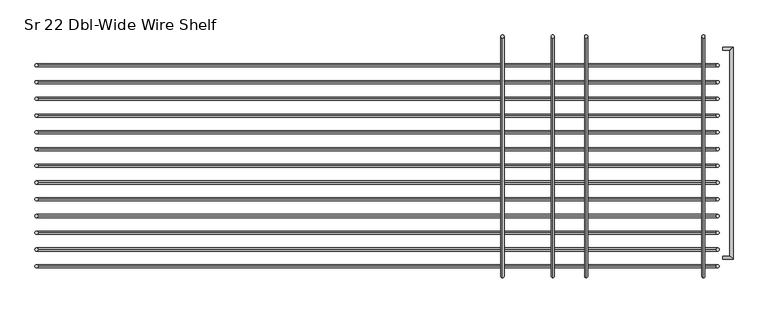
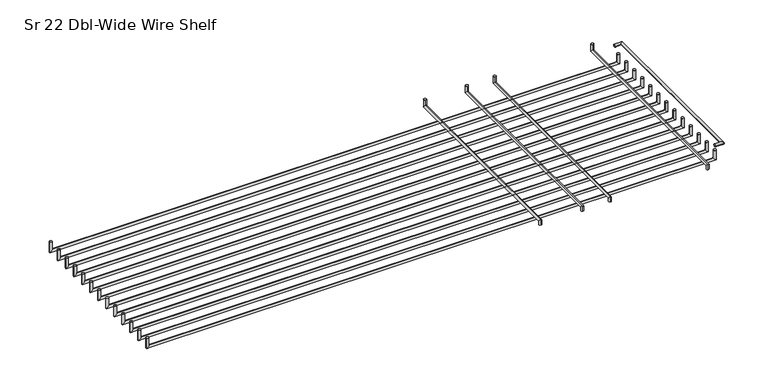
"""IFC4 building model written with IfcOpenShell, lengths in millimetres: furniture geometry, HermanMiller_Carts_CT521_CartShelf : Sr 22 Dbl-Wide Wire Shelf."""

from ifc_helpers import new_model, si_unit, frame, origin, place, context, project, spatial, circle_curve, ellipse_curve, source, transform, mapped, element, save
from ifc_brep_helpers import plane_surface, cylinder_surface, advanced_brep


def sr_22_dbl_wide_wire_shelf_9923fb06(model_context):
    return source(origin(), model_context, "Body", "AdvancedBrep", [
        advanced_brep(
        [(743.3373883, -178.26736, 2166.1501), (743.3373883, -183.04256, 2166.1501), (743.3373883, 133.81736, 2166.1501), (743.3373883, 138.59256, 2166.1501), (759.2123883, -183.04256, 2166.1501), (754.4371883, -178.26736, 2166.1501), (759.2123883, 138.59256, 2166.1501), (754.4371883, 133.81736, 2166.1501)],
        [
            (0, 1, circle_curve(frame((743.3373883, -180.65496, 2166.1501), z_axis=(-1.0, 0.0, 0.0), x_axis=(0.0, -1.0, 0.0)), 2.3876)),
            (1, 0, circle_curve(frame((743.3373883, -180.65496, 2166.1501), z_axis=(-1.0, 0.0, 0.0), x_axis=(0.0, -1.0, 0.0)), 2.3876)),
            (2, 3, circle_curve(frame((743.3373883, 136.20496, 2166.1501), z_axis=(-1.0, 0.0, 0.0), x_axis=(0.0, 1.0, 0.0)), 2.3876)),
            (3, 2, circle_curve(frame((743.3373883, 136.20496, 2166.1501), z_axis=(-1.0, 0.0, 0.0), x_axis=(0.0, 1.0, 0.0)), 2.3876)),
            (1, 4),
            (4, 5, ellipse_curve(frame((756.8247883, -180.65496, 2166.1501), z_axis=(-0.7071067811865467, -0.7071067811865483, 0.0), x_axis=(-0.7071067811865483, 0.7071067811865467, 0.0)), 3.3765763, 2.3876)),
            (5, 0),
            (5, 4, ellipse_curve(frame((756.8247883, -180.65496, 2166.1501), z_axis=(-0.7071067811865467, -0.7071067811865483, 0.0), x_axis=(-0.7071067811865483, 0.7071067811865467, 0.0)), 3.3765763, 2.3876)),
            (4, 6),
            (6, 7, ellipse_curve(frame((756.8247883, 136.20496, 2166.1501), z_axis=(0.7071067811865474, -0.7071067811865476, 0.0), x_axis=(-0.7071067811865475, -0.7071067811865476, 0.0)), 3.3765763, 2.3876)),
            (7, 5),
            (7, 6, ellipse_curve(frame((756.8247883, 136.20496, 2166.1501), z_axis=(0.7071067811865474, -0.7071067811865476, 0.0), x_axis=(-0.7071067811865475, -0.7071067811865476, 0.0)), 3.3765763, 2.3876)),
            (6, 3),
            (2, 7),
        ],
        [
            plane_surface(frame((743.3373883, -180.65496, 2166.1501), z_axis=(-1.0, 0.0, 0.0), x_axis=(0.0, 0.0, 1.0))),
            plane_surface(frame((743.3373883, 136.20496, 2166.1501), z_axis=(-1.0, 0.0, 0.0), x_axis=(0.0, 0.0, 1.0))),
            cylinder_surface(frame((743.3373883, -180.65496, 2166.1501), z_axis=(-1.0, 0.0, 0.0), x_axis=(0.0, -1.0, 0.0)), 2.3876),
            cylinder_surface(frame((756.8247883, -180.65496, 2166.1501), z_axis=(0.0, -1.0, 0.0), x_axis=(1.0, 0.0, 0.0)), 2.3876),
            cylinder_surface(frame((756.8247883, 136.20496, 2166.1501), z_axis=(1.0, 0.0, 0.0), x_axis=(0.0, 1.0, 0.0)), 2.3876),
        ],
        [
            (0, [[1, 2]]),
            (1, [[3, 4]]),
            (2, [[5, 6, 7, -2]]),
            (2, [[-7, 8, -5, -1]]),
            (3, [[9, 10, 11, -6]]),
            (3, [[-11, 12, -9, -8]]),
            (4, [[13, -3, 14, -10]]),
            (4, [[-14, -4, -13, -12]]),
        ],
    ),
        advanced_brep(
        [(733.4732983, 34.925, 2168.5377), (738.2357983, 34.925, 2168.5377), (733.4732983, 34.925, 2153.2596), (738.2357983, 34.925, 2148.4971), (-295.1886017, 34.925, 2153.2596), (-299.9511017, 34.925, 2148.4971), (-295.1886017, 34.925, 2168.5377), (-299.9511017, 34.925, 2168.5377)],
        [
            (0, 1, circle_curve(frame((735.8545483, 34.925, 2168.5377), z_axis=(0.0, 0.0, 1.0), x_axis=(1.0, 0.0, 0.0)), 2.38125)),
            (1, 0, circle_curve(frame((735.8545483, 34.925, 2168.5377), z_axis=(0.0, 0.0, 1.0), x_axis=(1.0, 0.0, 0.0)), 2.38125)),
            (0, 2),
            (2, 3, ellipse_curve(frame((735.8545483, 34.925, 2150.87835), z_axis=(0.7071067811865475, 0.0, 0.7071067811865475), x_axis=(-0.7071067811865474, 0.0, 0.7071067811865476)), 3.367596, 2.38125)),
            (3, 1),
            (3, 2, ellipse_curve(frame((735.8545483, 34.925, 2150.87835), z_axis=(0.7071067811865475, 0.0, 0.7071067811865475), x_axis=(-0.7071067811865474, 0.0, 0.7071067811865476)), 3.367596, 2.38125)),
            (2, 4),
            (4, 5, ellipse_curve(frame((-297.5698517, 34.925, 2150.87835), z_axis=(0.7071067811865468, 0.0, -0.7071067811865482), x_axis=(0.7071067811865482, 0.0, 0.7071067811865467)), 3.367596, 2.38125)),
            (5, 3),
            (5, 4, ellipse_curve(frame((-297.5698517, 34.925, 2150.87835), z_axis=(0.7071067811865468, 0.0, -0.7071067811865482), x_axis=(0.7071067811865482, 0.0, 0.7071067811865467)), 3.367596, 2.38125)),
            (6, 7, circle_curve(frame((-297.5698517, 34.925, 2168.5377), z_axis=(0.0, 0.0, 1.0), x_axis=(-1.0, 0.0, 0.0)), 2.38125)),
            (7, 6, circle_curve(frame((-297.5698517, 34.925, 2168.5377), z_axis=(0.0, 0.0, 1.0), x_axis=(-1.0, 0.0, 0.0)), 2.38125)),
            (4, 6),
            (7, 5),
        ],
        [
            plane_surface(frame((735.8545483, 34.925, 2168.5377), z_axis=(0.0, 0.0, 1.0), x_axis=(0.0, -1.0, 0.0))),
            cylinder_surface(frame((735.8545483, 34.925, 2168.5377), z_axis=(0.0, 0.0, 1.0), x_axis=(1.0, 0.0, 0.0)), 2.38125),
            cylinder_surface(frame((735.8545483, 34.925, 2150.87835), z_axis=(1.0, 0.0, 0.0), x_axis=(0.0, 0.0, -1.0)), 2.38125),
            plane_surface(frame((-297.5698517, 34.925, 2168.5377), z_axis=(0.0, 0.0, 1.0), x_axis=(0.0, -1.0, 0.0))),
            cylinder_surface(frame((-297.5698517, 34.925, 2150.87835), z_axis=(0.0, 0.0, -1.0), x_axis=(-1.0, 0.0, 0.0)), 2.38125),
        ],
        [
            (0, [[1, 2]]),
            (1, [[-1, 3, 4, 5]]),
            (1, [[-2, -5, 6, -3]]),
            (2, [[-4, 7, 8, 9]]),
            (2, [[-6, -9, 10, -7]]),
            (3, [[11, 12]]),
            (4, [[-8, 13, -12, 14]]),
            (4, [[-10, -14, -11, -13]]),
        ],
    ),
        advanced_brep(
        [(733.4732983, -15.875, 2168.5377), (738.2357983, -15.875, 2168.5377), (733.4732983, -15.875, 2153.2596), (738.2357983, -15.875, 2148.4971), (-295.1886017, -15.875, 2153.2596), (-299.9511017, -15.875, 2148.4971), (-295.1886017, -15.875, 2168.5377), (-299.9511017, -15.875, 2168.5377)],
        [
            (0, 1, circle_curve(frame((735.8545483, -15.875, 2168.5377), z_axis=(0.0, 0.0, 1.0), x_axis=(1.0, 0.0, 0.0)), 2.38125)),
            (1, 0, circle_curve(frame((735.8545483, -15.875, 2168.5377), z_axis=(0.0, 0.0, 1.0), x_axis=(1.0, 0.0, 0.0)), 2.38125)),
            (0, 2),
            (2, 3, ellipse_curve(frame((735.8545483, -15.875, 2150.87835), z_axis=(0.7071067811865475, 0.0, 0.7071067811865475), x_axis=(-0.7071067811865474, 0.0, 0.7071067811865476)), 3.367596, 2.38125)),
            (3, 1),
            (3, 2, ellipse_curve(frame((735.8545483, -15.875, 2150.87835), z_axis=(0.7071067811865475, 0.0, 0.7071067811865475), x_axis=(-0.7071067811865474, 0.0, 0.7071067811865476)), 3.367596, 2.38125)),
            (2, 4),
            (4, 5, ellipse_curve(frame((-297.5698517, -15.875, 2150.87835), z_axis=(0.7071067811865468, 0.0, -0.7071067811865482), x_axis=(0.7071067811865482, 0.0, 0.7071067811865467)), 3.367596, 2.38125)),
            (5, 3),
            (5, 4, ellipse_curve(frame((-297.5698517, -15.875, 2150.87835), z_axis=(0.7071067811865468, 0.0, -0.7071067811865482), x_axis=(0.7071067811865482, 0.0, 0.7071067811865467)), 3.367596, 2.38125)),
            (6, 7, circle_curve(frame((-297.5698517, -15.875, 2168.5377), z_axis=(0.0, 0.0, 1.0), x_axis=(-1.0, 0.0, 0.0)), 2.38125)),
            (7, 6, circle_curve(frame((-297.5698517, -15.875, 2168.5377), z_axis=(0.0, 0.0, 1.0), x_axis=(-1.0, 0.0, 0.0)), 2.38125)),
            (4, 6),
            (7, 5),
        ],
        [
            plane_surface(frame((735.8545483, -15.875, 2168.5377), z_axis=(0.0, 0.0, 1.0), x_axis=(0.0, -1.0, 0.0))),
            cylinder_surface(frame((735.8545483, -15.875, 2168.5377), z_axis=(0.0, 0.0, 1.0), x_axis=(1.0, 0.0, 0.0)), 2.38125),
            cylinder_surface(frame((735.8545483, -15.875, 2150.87835), z_axis=(1.0, 0.0, 0.0), x_axis=(0.0, 0.0, -1.0)), 2.38125),
            plane_surface(frame((-297.5698517, -15.875, 2168.5377), z_axis=(0.0, 0.0, 1.0), x_axis=(0.0, -1.0, 0.0))),
            cylinder_surface(frame((-297.5698517, -15.875, 2150.87835), z_axis=(0.0, 0.0, -1.0), x_axis=(-1.0, 0.0, 0.0)), 2.38125),
        ],
        [
            (0, [[1, 2]]),
            (1, [[-1, 3, 4, 5]]),
            (1, [[-2, -5, 6, -3]]),
            (2, [[-4, 7, 8, 9]]),
            (2, [[-6, -9, 10, -7]]),
            (3, [[11, 12]]),
            (4, [[-8, 13, -12, 14]]),
            (4, [[-10, -14, -11, -13]]),
        ],
    ),
        advanced_brep(
        [(733.4732983, -66.675, 2168.5377), (738.2357983, -66.675, 2168.5377), (733.4732983, -66.675, 2153.2596), (738.2357983, -66.675, 2148.4971), (-295.1886017, -66.675, 2153.2596), (-299.9511017, -66.675, 2148.4971), (-295.1886017, -66.675, 2168.5377), (-299.9511017, -66.675, 2168.5377)],
        [
            (0, 1, circle_curve(frame((735.8545483, -66.675, 2168.5377), z_axis=(0.0, 0.0, 1.0), x_axis=(1.0, 0.0, 0.0)), 2.38125)),
            (1, 0, circle_curve(frame((735.8545483, -66.675, 2168.5377), z_axis=(0.0, 0.0, 1.0), x_axis=(1.0, 0.0, 0.0)), 2.38125)),
            (0, 2),
            (2, 3, ellipse_curve(frame((735.8545483, -66.675, 2150.87835), z_axis=(0.7071067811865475, 0.0, 0.7071067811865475), x_axis=(-0.7071067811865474, 0.0, 0.7071067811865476)), 3.367596, 2.38125)),
            (3, 1),
            (3, 2, ellipse_curve(frame((735.8545483, -66.675, 2150.87835), z_axis=(0.7071067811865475, 0.0, 0.7071067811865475), x_axis=(-0.7071067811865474, 0.0, 0.7071067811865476)), 3.367596, 2.38125)),
            (2, 4),
            (4, 5, ellipse_curve(frame((-297.5698517, -66.675, 2150.87835), z_axis=(0.7071067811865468, 0.0, -0.7071067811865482), x_axis=(0.7071067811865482, 0.0, 0.7071067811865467)), 3.367596, 2.38125)),
            (5, 3),
            (5, 4, ellipse_curve(frame((-297.5698517, -66.675, 2150.87835), z_axis=(0.7071067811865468, 0.0, -0.7071067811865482), x_axis=(0.7071067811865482, 0.0, 0.7071067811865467)), 3.367596, 2.38125)),
            (6, 7, circle_curve(frame((-297.5698517, -66.675, 2168.5377), z_axis=(0.0, 0.0, 1.0), x_axis=(-1.0, 0.0, 0.0)), 2.38125)),
            (7, 6, circle_curve(frame((-297.5698517, -66.675, 2168.5377), z_axis=(0.0, 0.0, 1.0), x_axis=(-1.0, 0.0, 0.0)), 2.38125)),
            (4, 6),
            (7, 5),
        ],
        [
            plane_surface(frame((735.8545483, -66.675, 2168.5377), z_axis=(0.0, 0.0, 1.0), x_axis=(0.0, -1.0, 0.0))),
            cylinder_surface(frame((735.8545483, -66.675, 2168.5377), z_axis=(0.0, 0.0, 1.0), x_axis=(1.0, 0.0, 0.0)), 2.38125),
            cylinder_surface(frame((735.8545483, -66.675, 2150.87835), z_axis=(1.0, 0.0, 0.0), x_axis=(0.0, 0.0, -1.0)), 2.38125),
            plane_surface(frame((-297.5698517, -66.675, 2168.5377), z_axis=(0.0, 0.0, 1.0), x_axis=(0.0, -1.0, 0.0))),
            cylinder_surface(frame((-297.5698517, -66.675, 2150.87835), z_axis=(0.0, 0.0, -1.0), x_axis=(-1.0, 0.0, 0.0)), 2.38125),
        ],
        [
            (0, [[1, 2]]),
            (1, [[-1, 3, 4, 5]]),
            (1, [[-2, -5, 6, -3]]),
            (2, [[-4, 7, 8, 9]]),
            (2, [[-6, -9, 10, -7]]),
            (3, [[11, 12]]),
            (4, [[-8, 13, -12, 14]]),
            (4, [[-10, -14, -11, -13]]),
        ],
    ),
        advanced_brep(
        [(733.4732983, -117.475, 2168.5377), (738.2357983, -117.475, 2168.5377), (733.4732983, -117.475, 2153.2596), (738.2357983, -117.475, 2148.4971), (-295.1886017, -117.475, 2153.2596), (-299.9511017, -117.475, 2148.4971), (-295.1886017, -117.475, 2168.5377), (-299.9511017, -117.475, 2168.5377)],
        [
            (0, 1, circle_curve(frame((735.8545483, -117.475, 2168.5377), z_axis=(0.0, 0.0, 1.0), x_axis=(1.0, 0.0, 0.0)), 2.38125)),
            (1, 0, circle_curve(frame((735.8545483, -117.475, 2168.5377), z_axis=(0.0, 0.0, 1.0), x_axis=(1.0, 0.0, 0.0)), 2.38125)),
            (0, 2),
            (2, 3, ellipse_curve(frame((735.8545483, -117.475, 2150.87835), z_axis=(0.7071067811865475, 0.0, 0.7071067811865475), x_axis=(-0.7071067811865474, 0.0, 0.7071067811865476)), 3.367596, 2.38125)),
            (3, 1),
            (3, 2, ellipse_curve(frame((735.8545483, -117.475, 2150.87835), z_axis=(0.7071067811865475, 0.0, 0.7071067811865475), x_axis=(-0.7071067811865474, 0.0, 0.7071067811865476)), 3.367596, 2.38125)),
            (2, 4),
            (4, 5, ellipse_curve(frame((-297.5698517, -117.475, 2150.87835), z_axis=(0.7071067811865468, 0.0, -0.7071067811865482), x_axis=(0.7071067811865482, 0.0, 0.7071067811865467)), 3.367596, 2.38125)),
            (5, 3),
            (5, 4, ellipse_curve(frame((-297.5698517, -117.475, 2150.87835), z_axis=(0.7071067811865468, 0.0, -0.7071067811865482), x_axis=(0.7071067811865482, 0.0, 0.7071067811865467)), 3.367596, 2.38125)),
            (6, 7, circle_curve(frame((-297.5698517, -117.475, 2168.5377), z_axis=(0.0, 0.0, 1.0), x_axis=(-1.0, 0.0, 0.0)), 2.38125)),
            (7, 6, circle_curve(frame((-297.5698517, -117.475, 2168.5377), z_axis=(0.0, 0.0, 1.0), x_axis=(-1.0, 0.0, 0.0)), 2.38125)),
            (4, 6),
            (7, 5),
        ],
        [
            plane_surface(frame((735.8545483, -117.475, 2168.5377), z_axis=(0.0, 0.0, 1.0), x_axis=(0.0, -1.0, 0.0))),
            cylinder_surface(frame((735.8545483, -117.475, 2168.5377), z_axis=(0.0, 0.0, 1.0), x_axis=(1.0, 0.0, 0.0)), 2.38125),
            cylinder_surface(frame((735.8545483, -117.475, 2150.87835), z_axis=(1.0, 0.0, 0.0), x_axis=(0.0, 0.0, -1.0)), 2.38125),
            plane_surface(frame((-297.5698517, -117.475, 2168.5377), z_axis=(0.0, 0.0, 1.0), x_axis=(0.0, -1.0, 0.0))),
            cylinder_surface(frame((-297.5698517, -117.475, 2150.87835), z_axis=(0.0, 0.0, -1.0), x_axis=(-1.0, 0.0, 0.0)), 2.38125),
        ],
        [
            (0, [[1, 2]]),
            (1, [[-1, 3, 4, 5]]),
            (1, [[-2, -5, 6, -3]]),
            (2, [[-4, 7, 8, 9]]),
            (2, [[-6, -9, 10, -7]]),
            (3, [[11, 12]]),
            (4, [[-8, 13, -12, 14]]),
            (4, [[-10, -14, -11, -13]]),
        ],
    ),
        advanced_brep(
        [(733.4732983, -168.275, 2168.5377), (738.2357983, -168.275, 2168.5377), (733.4732983, -168.275, 2153.2596), (738.2357983, -168.275, 2148.4971), (-295.1886017, -168.275, 2153.2596), (-299.9511017, -168.275, 2148.4971), (-295.1886017, -168.275, 2168.5377), (-299.9511017, -168.275, 2168.5377)],
        [
            (0, 1, circle_curve(frame((735.8545483, -168.275, 2168.5377), z_axis=(0.0, 0.0, 1.0), x_axis=(1.0, 0.0, 0.0)), 2.38125)),
            (1, 0, circle_curve(frame((735.8545483, -168.275, 2168.5377), z_axis=(0.0, 0.0, 1.0), x_axis=(1.0, 0.0, 0.0)), 2.38125)),
            (0, 2),
            (2, 3, ellipse_curve(frame((735.8545483, -168.275, 2150.87835), z_axis=(0.7071067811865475, 0.0, 0.7071067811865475), x_axis=(-0.7071067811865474, 0.0, 0.7071067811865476)), 3.367596, 2.38125)),
            (3, 1),
            (3, 2, ellipse_curve(frame((735.8545483, -168.275, 2150.87835), z_axis=(0.7071067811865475, 0.0, 0.7071067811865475), x_axis=(-0.7071067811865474, 0.0, 0.7071067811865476)), 3.367596, 2.38125)),
            (2, 4),
            (4, 5, ellipse_curve(frame((-297.5698517, -168.275, 2150.87835), z_axis=(0.7071067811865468, 0.0, -0.7071067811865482), x_axis=(0.7071067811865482, 0.0, 0.7071067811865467)), 3.367596, 2.38125)),
            (5, 3),
            (5, 4, ellipse_curve(frame((-297.5698517, -168.275, 2150.87835), z_axis=(0.7071067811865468, 0.0, -0.7071067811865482), x_axis=(0.7071067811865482, 0.0, 0.7071067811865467)), 3.367596, 2.38125)),
            (6, 7, circle_curve(frame((-297.5698517, -168.275, 2168.5377), z_axis=(0.0, 0.0, 1.0), x_axis=(-1.0, 0.0, 0.0)), 2.38125)),
            (7, 6, circle_curve(frame((-297.5698517, -168.275, 2168.5377), z_axis=(0.0, 0.0, 1.0), x_axis=(-1.0, 0.0, 0.0)), 2.38125)),
            (4, 6),
            (7, 5),
        ],
        [
            plane_surface(frame((735.8545483, -168.275, 2168.5377), z_axis=(0.0, 0.0, 1.0), x_axis=(0.0, -1.0, 0.0))),
            cylinder_surface(frame((735.8545483, -168.275, 2168.5377), z_axis=(0.0, 0.0, 1.0), x_axis=(1.0, 0.0, 0.0)), 2.38125),
            cylinder_surface(frame((735.8545483, -168.275, 2150.87835), z_axis=(1.0, 0.0, 0.0), x_axis=(0.0, 0.0, -1.0)), 2.38125),
            plane_surface(frame((-297.5698517, -168.275, 2168.5377), z_axis=(0.0, 0.0, 1.0), x_axis=(0.0, -1.0, 0.0))),
            cylinder_surface(frame((-297.5698517, -168.275, 2150.87835), z_axis=(0.0, 0.0, -1.0), x_axis=(-1.0, 0.0, 0.0)), 2.38125),
        ],
        [
            (0, [[1, 2]]),
            (1, [[-1, 3, 4, 5]]),
            (1, [[-2, -5, 6, -3]]),
            (2, [[-4, 7, 8, 9]]),
            (2, [[-6, -9, 10, -7]]),
            (3, [[11, 12]]),
            (4, [[-8, 13, -12, 14]]),
            (4, [[-10, -14, -11, -13]]),
        ],
    ),
        advanced_brep(
        [(733.4732983, -193.675, 2168.5377), (738.2357983, -193.675, 2168.5377), (733.4732983, -193.675, 2153.2596), (738.2357983, -193.675, 2148.4971), (-295.1886017, -193.675, 2153.2596), (-299.9511017, -193.675, 2148.4971), (-295.1886017, -193.675, 2168.5377), (-299.9511017, -193.675, 2168.5377)],
        [
            (0, 1, circle_curve(frame((735.8545483, -193.675, 2168.5377), z_axis=(0.0, 0.0, 1.0), x_axis=(1.0, 0.0, 0.0)), 2.38125)),
            (1, 0, circle_curve(frame((735.8545483, -193.675, 2168.5377), z_axis=(0.0, 0.0, 1.0), x_axis=(1.0, 0.0, 0.0)), 2.38125)),
            (0, 2),
            (2, 3, ellipse_curve(frame((735.8545483, -193.675, 2150.87835), z_axis=(0.7071067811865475, 0.0, 0.7071067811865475), x_axis=(-0.7071067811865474, 0.0, 0.7071067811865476)), 3.367596, 2.38125)),
            (3, 1),
            (3, 2, ellipse_curve(frame((735.8545483, -193.675, 2150.87835), z_axis=(0.7071067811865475, 0.0, 0.7071067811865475), x_axis=(-0.7071067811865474, 0.0, 0.7071067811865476)), 3.367596, 2.38125)),
            (2, 4),
            (4, 5, ellipse_curve(frame((-297.5698517, -193.675, 2150.87835), z_axis=(0.7071067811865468, 0.0, -0.7071067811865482), x_axis=(0.7071067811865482, 0.0, 0.7071067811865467)), 3.367596, 2.38125)),
            (5, 3),
            (5, 4, ellipse_curve(frame((-297.5698517, -193.675, 2150.87835), z_axis=(0.7071067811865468, 0.0, -0.7071067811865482), x_axis=(0.7071067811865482, 0.0, 0.7071067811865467)), 3.367596, 2.38125)),
            (6, 7, circle_curve(frame((-297.5698517, -193.675, 2168.5377), z_axis=(0.0, 0.0, 1.0), x_axis=(-1.0, 0.0, 0.0)), 2.38125)),
            (7, 6, circle_curve(frame((-297.5698517, -193.675, 2168.5377), z_axis=(0.0, 0.0, 1.0), x_axis=(-1.0, 0.0, 0.0)), 2.38125)),
            (4, 6),
            (7, 5),
        ],
        [
            plane_surface(frame((735.8545483, -193.675, 2168.5377), z_axis=(0.0, 0.0, 1.0), x_axis=(0.0, -1.0, 0.0))),
            cylinder_surface(frame((735.8545483, -193.675, 2168.5377), z_axis=(0.0, 0.0, 1.0), x_axis=(1.0, 0.0, 0.0)), 2.38125),
            cylinder_surface(frame((735.8545483, -193.675, 2150.87835), z_axis=(1.0, 0.0, 0.0), x_axis=(0.0, 0.0, -1.0)), 2.38125),
            plane_surface(frame((-297.5698517, -193.675, 2168.5377), z_axis=(0.0, 0.0, 1.0), x_axis=(0.0, -1.0, 0.0))),
            cylinder_surface(frame((-297.5698517, -193.675, 2150.87835), z_axis=(0.0, 0.0, -1.0), x_axis=(-1.0, 0.0, 0.0)), 2.38125),
        ],
        [
            (0, [[1, 2]]),
            (1, [[-1, 3, 4, 5]]),
            (1, [[-2, -5, 6, -3]]),
            (2, [[-4, 7, 8, 9]]),
            (2, [[-6, -9, 10, -7]]),
            (3, [[11, 12]]),
            (4, [[-8, 13, -12, 14]]),
            (4, [[-10, -14, -11, -13]]),
        ],
    ),
        advanced_brep(
        [(733.4732983, -142.875, 2168.5377), (738.2357983, -142.875, 2168.5377), (733.4732983, -142.875, 2153.2596), (738.2357983, -142.875, 2148.4971), (-295.1886017, -142.875, 2153.2596), (-299.9511017, -142.875, 2148.4971), (-295.1886017, -142.875, 2168.5377), (-299.9511017, -142.875, 2168.5377)],
        [
            (0, 1, circle_curve(frame((735.8545483, -142.875, 2168.5377), z_axis=(0.0, 0.0, 1.0), x_axis=(1.0, 0.0, 0.0)), 2.38125)),
            (1, 0, circle_curve(frame((735.8545483, -142.875, 2168.5377), z_axis=(0.0, 0.0, 1.0), x_axis=(1.0, 0.0, 0.0)), 2.38125)),
            (0, 2),
            (2, 3, ellipse_curve(frame((735.8545483, -142.875, 2150.87835), z_axis=(0.7071067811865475, 0.0, 0.7071067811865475), x_axis=(-0.7071067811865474, 0.0, 0.7071067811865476)), 3.367596, 2.38125)),
            (3, 1),
            (3, 2, ellipse_curve(frame((735.8545483, -142.875, 2150.87835), z_axis=(0.7071067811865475, 0.0, 0.7071067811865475), x_axis=(-0.7071067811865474, 0.0, 0.7071067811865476)), 3.367596, 2.38125)),
            (2, 4),
            (4, 5, ellipse_curve(frame((-297.5698517, -142.875, 2150.87835), z_axis=(0.7071067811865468, 0.0, -0.7071067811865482), x_axis=(0.7071067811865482, 0.0, 0.7071067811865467)), 3.367596, 2.38125)),
            (5, 3),
            (5, 4, ellipse_curve(frame((-297.5698517, -142.875, 2150.87835), z_axis=(0.7071067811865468, 0.0, -0.7071067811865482), x_axis=(0.7071067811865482, 0.0, 0.7071067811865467)), 3.367596, 2.38125)),
            (6, 7, circle_curve(frame((-297.5698517, -142.875, 2168.5377), z_axis=(0.0, 0.0, 1.0), x_axis=(-1.0, 0.0, 0.0)), 2.38125)),
            (7, 6, circle_curve(frame((-297.5698517, -142.875, 2168.5377), z_axis=(0.0, 0.0, 1.0), x_axis=(-1.0, 0.0, 0.0)), 2.38125)),
            (4, 6),
            (7, 5),
        ],
        [
            plane_surface(frame((735.8545483, -142.875, 2168.5377), z_axis=(0.0, 0.0, 1.0), x_axis=(0.0, -1.0, 0.0))),
            cylinder_surface(frame((735.8545483, -142.875, 2168.5377), z_axis=(0.0, 0.0, 1.0), x_axis=(1.0, 0.0, 0.0)), 2.38125),
            cylinder_surface(frame((735.8545483, -142.875, 2150.87835), z_axis=(1.0, 0.0, 0.0), x_axis=(0.0, 0.0, -1.0)), 2.38125),
            plane_surface(frame((-297.5698517, -142.875, 2168.5377), z_axis=(0.0, 0.0, 1.0), x_axis=(0.0, -1.0, 0.0))),
            cylinder_surface(frame((-297.5698517, -142.875, 2150.87835), z_axis=(0.0, 0.0, -1.0), x_axis=(-1.0, 0.0, 0.0)), 2.38125),
        ],
        [
            (0, [[1, 2]]),
            (1, [[-1, 3, 4, 5]]),
            (1, [[-2, -5, 6, -3]]),
            (2, [[-4, 7, 8, 9]]),
            (2, [[-6, -9, 10, -7]]),
            (3, [[11, 12]]),
            (4, [[-8, 13, -12, 14]]),
            (4, [[-10, -14, -11, -13]]),
        ],
    ),
        advanced_brep(
        [(733.4732983, -92.075, 2168.5377), (738.2357983, -92.075, 2168.5377), (733.4732983, -92.075, 2153.2596), (738.2357983, -92.075, 2148.4971), (-295.1886017, -92.075, 2153.2596), (-299.9511017, -92.075, 2148.4971), (-295.1886017, -92.075, 2168.5377), (-299.9511017, -92.075, 2168.5377)],
        [
            (0, 1, circle_curve(frame((735.8545483, -92.075, 2168.5377), z_axis=(0.0, 0.0, 1.0), x_axis=(1.0, 0.0, 0.0)), 2.38125)),
            (1, 0, circle_curve(frame((735.8545483, -92.075, 2168.5377), z_axis=(0.0, 0.0, 1.0), x_axis=(1.0, 0.0, 0.0)), 2.38125)),
            (0, 2),
            (2, 3, ellipse_curve(frame((735.8545483, -92.075, 2150.87835), z_axis=(0.7071067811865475, 0.0, 0.7071067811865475), x_axis=(-0.7071067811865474, 0.0, 0.7071067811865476)), 3.367596, 2.38125)),
            (3, 1),
            (3, 2, ellipse_curve(frame((735.8545483, -92.075, 2150.87835), z_axis=(0.7071067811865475, 0.0, 0.7071067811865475), x_axis=(-0.7071067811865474, 0.0, 0.7071067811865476)), 3.367596, 2.38125)),
            (2, 4),
            (4, 5, ellipse_curve(frame((-297.5698517, -92.075, 2150.87835), z_axis=(0.7071067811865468, 0.0, -0.7071067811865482), x_axis=(0.7071067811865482, 0.0, 0.7071067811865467)), 3.367596, 2.38125)),
            (5, 3),
            (5, 4, ellipse_curve(frame((-297.5698517, -92.075, 2150.87835), z_axis=(0.7071067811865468, 0.0, -0.7071067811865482), x_axis=(0.7071067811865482, 0.0, 0.7071067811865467)), 3.367596, 2.38125)),
            (6, 7, circle_curve(frame((-297.5698517, -92.075, 2168.5377), z_axis=(0.0, 0.0, 1.0), x_axis=(-1.0, 0.0, 0.0)), 2.38125)),
            (7, 6, circle_curve(frame((-297.5698517, -92.075, 2168.5377), z_axis=(0.0, 0.0, 1.0), x_axis=(-1.0, 0.0, 0.0)), 2.38125)),
            (4, 6),
            (7, 5),
        ],
        [
            plane_surface(frame((735.8545483, -92.075, 2168.5377), z_axis=(0.0, 0.0, 1.0), x_axis=(0.0, -1.0, 0.0))),
            cylinder_surface(frame((735.8545483, -92.075, 2168.5377), z_axis=(0.0, 0.0, 1.0), x_axis=(1.0, 0.0, 0.0)), 2.38125),
            cylinder_surface(frame((735.8545483, -92.075, 2150.87835), z_axis=(1.0, 0.0, 0.0), x_axis=(0.0, 0.0, -1.0)), 2.38125),
            plane_surface(frame((-297.5698517, -92.075, 2168.5377), z_axis=(0.0, 0.0, 1.0), x_axis=(0.0, -1.0, 0.0))),
            cylinder_surface(frame((-297.5698517, -92.075, 2150.87835), z_axis=(0.0, 0.0, -1.0), x_axis=(-1.0, 0.0, 0.0)), 2.38125),
        ],
        [
            (0, [[1, 2]]),
            (1, [[-1, 3, 4, 5]]),
            (1, [[-2, -5, 6, -3]]),
            (2, [[-4, 7, 8, 9]]),
            (2, [[-6, -9, 10, -7]]),
            (3, [[11, 12]]),
            (4, [[-8, 13, -12, 14]]),
            (4, [[-10, -14, -11, -13]]),
        ],
    ),
        advanced_brep(
        [(733.4732983, -41.275, 2168.5377), (738.2357983, -41.275, 2168.5377), (733.4732983, -41.275, 2153.2596), (738.2357983, -41.275, 2148.4971), (-295.1886017, -41.275, 2153.2596), (-299.9511017, -41.275, 2148.4971), (-295.1886017, -41.275, 2168.5377), (-299.9511017, -41.275, 2168.5377)],
        [
            (0, 1, circle_curve(frame((735.8545483, -41.275, 2168.5377), z_axis=(0.0, 0.0, 1.0), x_axis=(1.0, 0.0, 0.0)), 2.38125)),
            (1, 0, circle_curve(frame((735.8545483, -41.275, 2168.5377), z_axis=(0.0, 0.0, 1.0), x_axis=(1.0, 0.0, 0.0)), 2.38125)),
            (0, 2),
            (2, 3, ellipse_curve(frame((735.8545483, -41.275, 2150.87835), z_axis=(0.7071067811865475, 0.0, 0.7071067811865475), x_axis=(-0.7071067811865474, 0.0, 0.7071067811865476)), 3.367596, 2.38125)),
            (3, 1),
            (3, 2, ellipse_curve(frame((735.8545483, -41.275, 2150.87835), z_axis=(0.7071067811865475, 0.0, 0.7071067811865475), x_axis=(-0.7071067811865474, 0.0, 0.7071067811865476)), 3.367596, 2.38125)),
            (2, 4),
            (4, 5, ellipse_curve(frame((-297.5698517, -41.275, 2150.87835), z_axis=(0.7071067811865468, 0.0, -0.7071067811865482), x_axis=(0.7071067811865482, 0.0, 0.7071067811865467)), 3.367596, 2.38125)),
            (5, 3),
            (5, 4, ellipse_curve(frame((-297.5698517, -41.275, 2150.87835), z_axis=(0.7071067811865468, 0.0, -0.7071067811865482), x_axis=(0.7071067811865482, 0.0, 0.7071067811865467)), 3.367596, 2.38125)),
            (6, 7, circle_curve(frame((-297.5698517, -41.275, 2168.5377), z_axis=(0.0, 0.0, 1.0), x_axis=(-1.0, 0.0, 0.0)), 2.38125)),
            (7, 6, circle_curve(frame((-297.5698517, -41.275, 2168.5377), z_axis=(0.0, 0.0, 1.0), x_axis=(-1.0, 0.0, 0.0)), 2.38125)),
            (4, 6),
            (7, 5),
        ],
        [
            plane_surface(frame((735.8545483, -41.275, 2168.5377), z_axis=(0.0, 0.0, 1.0), x_axis=(0.0, -1.0, 0.0))),
            cylinder_surface(frame((735.8545483, -41.275, 2168.5377), z_axis=(0.0, 0.0, 1.0), x_axis=(1.0, 0.0, 0.0)), 2.38125),
            cylinder_surface(frame((735.8545483, -41.275, 2150.87835), z_axis=(1.0, 0.0, 0.0), x_axis=(0.0, 0.0, -1.0)), 2.38125),
            plane_surface(frame((-297.5698517, -41.275, 2168.5377), z_axis=(0.0, 0.0, 1.0), x_axis=(0.0, -1.0, 0.0))),
            cylinder_surface(frame((-297.5698517, -41.275, 2150.87835), z_axis=(0.0, 0.0, -1.0), x_axis=(-1.0, 0.0, 0.0)), 2.38125),
        ],
        [
            (0, [[1, 2]]),
            (1, [[-1, 3, 4, 5]]),
            (1, [[-2, -5, 6, -3]]),
            (2, [[-4, 7, 8, 9]]),
            (2, [[-6, -9, 10, -7]]),
            (3, [[11, 12]]),
            (4, [[-8, 13, -12, 14]]),
            (4, [[-10, -14, -11, -13]]),
        ],
    ),
        advanced_brep(
        [(733.4732983, 9.525, 2168.5377), (738.2357983, 9.525, 2168.5377), (733.4732983, 9.525, 2153.2596), (738.2357983, 9.525, 2148.4971), (-295.1886017, 9.525, 2153.2596), (-299.9511017, 9.525, 2148.4971), (-295.1886017, 9.525, 2168.5377), (-299.9511017, 9.525, 2168.5377)],
        [
            (0, 1, circle_curve(frame((735.8545483, 9.525, 2168.5377), z_axis=(0.0, 0.0, 1.0), x_axis=(1.0, 0.0, 0.0)), 2.38125)),
            (1, 0, circle_curve(frame((735.8545483, 9.525, 2168.5377), z_axis=(0.0, 0.0, 1.0), x_axis=(1.0, 0.0, 0.0)), 2.38125)),
            (0, 2),
            (2, 3, ellipse_curve(frame((735.8545483, 9.525, 2150.87835), z_axis=(0.7071067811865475, 0.0, 0.7071067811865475), x_axis=(-0.7071067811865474, 0.0, 0.7071067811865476)), 3.367596, 2.38125)),
            (3, 1),
            (3, 2, ellipse_curve(frame((735.8545483, 9.525, 2150.87835), z_axis=(0.7071067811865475, 0.0, 0.7071067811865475), x_axis=(-0.7071067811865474, 0.0, 0.7071067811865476)), 3.367596, 2.38125)),
            (2, 4),
            (4, 5, ellipse_curve(frame((-297.5698517, 9.525, 2150.87835), z_axis=(0.7071067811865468, 0.0, -0.7071067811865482), x_axis=(0.7071067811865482, 0.0, 0.7071067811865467)), 3.367596, 2.38125)),
            (5, 3),
            (5, 4, ellipse_curve(frame((-297.5698517, 9.525, 2150.87835), z_axis=(0.7071067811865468, 0.0, -0.7071067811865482), x_axis=(0.7071067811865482, 0.0, 0.7071067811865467)), 3.367596, 2.38125)),
            (6, 7, circle_curve(frame((-297.5698517, 9.525, 2168.5377), z_axis=(0.0, 0.0, 1.0), x_axis=(-1.0, 0.0, 0.0)), 2.38125)),
            (7, 6, circle_curve(frame((-297.5698517, 9.525, 2168.5377), z_axis=(0.0, 0.0, 1.0), x_axis=(-1.0, 0.0, 0.0)), 2.38125)),
            (4, 6),
            (7, 5),
        ],
        [
            plane_surface(frame((735.8545483, 9.525, 2168.5377), z_axis=(0.0, 0.0, 1.0), x_axis=(0.0, -1.0, 0.0))),
            cylinder_surface(frame((735.8545483, 9.525, 2168.5377), z_axis=(0.0, 0.0, 1.0), x_axis=(1.0, 0.0, 0.0)), 2.38125),
            cylinder_surface(frame((735.8545483, 9.525, 2150.87835), z_axis=(1.0, 0.0, 0.0), x_axis=(0.0, 0.0, -1.0)), 2.38125),
            plane_surface(frame((-297.5698517, 9.525, 2168.5377), z_axis=(0.0, 0.0, 1.0), x_axis=(0.0, -1.0, 0.0))),
            cylinder_surface(frame((-297.5698517, 9.525, 2150.87835), z_axis=(0.0, 0.0, -1.0), x_axis=(-1.0, 0.0, 0.0)), 2.38125),
        ],
        [
            (0, [[1, 2]]),
            (1, [[-1, 3, 4, 5]]),
            (1, [[-2, -5, 6, -3]]),
            (2, [[-4, 7, 8, 9]]),
            (2, [[-6, -9, 10, -7]]),
            (3, [[11, 12]]),
            (4, [[-8, 13, -12, 14]]),
            (4, [[-10, -14, -11, -13]]),
        ],
    ),
        advanced_brep(
        [(733.4732983, 60.325, 2168.5377), (738.2357983, 60.325, 2168.5377), (733.4732983, 60.325, 2153.2596), (738.2357983, 60.325, 2148.4971), (-295.1886017, 60.325, 2153.2596), (-299.9511017, 60.325, 2148.4971), (-295.1886017, 60.325, 2168.5377), (-299.9511017, 60.325, 2168.5377)],
        [
            (0, 1, circle_curve(frame((735.8545483, 60.325, 2168.5377), z_axis=(0.0, 0.0, 1.0), x_axis=(1.0, 0.0, 0.0)), 2.38125)),
            (1, 0, circle_curve(frame((735.8545483, 60.325, 2168.5377), z_axis=(0.0, 0.0, 1.0), x_axis=(1.0, 0.0, 0.0)), 2.38125)),
            (0, 2),
            (2, 3, ellipse_curve(frame((735.8545483, 60.325, 2150.87835), z_axis=(0.7071067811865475, 0.0, 0.7071067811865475), x_axis=(-0.7071067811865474, 0.0, 0.7071067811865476)), 3.367596, 2.38125)),
            (3, 1),
            (3, 2, ellipse_curve(frame((735.8545483, 60.325, 2150.87835), z_axis=(0.7071067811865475, 0.0, 0.7071067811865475), x_axis=(-0.7071067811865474, 0.0, 0.7071067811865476)), 3.367596, 2.38125)),
            (2, 4),
            (4, 5, ellipse_curve(frame((-297.5698517, 60.325, 2150.87835), z_axis=(0.7071067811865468, 0.0, -0.7071067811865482), x_axis=(0.7071067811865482, 0.0, 0.7071067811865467)), 3.367596, 2.38125)),
            (5, 3),
            (5, 4, ellipse_curve(frame((-297.5698517, 60.325, 2150.87835), z_axis=(0.7071067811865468, 0.0, -0.7071067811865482), x_axis=(0.7071067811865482, 0.0, 0.7071067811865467)), 3.367596, 2.38125)),
            (6, 7, circle_curve(frame((-297.5698517, 60.325, 2168.5377), z_axis=(0.0, 0.0, 1.0), x_axis=(-1.0, 0.0, 0.0)), 2.38125)),
            (7, 6, circle_curve(frame((-297.5698517, 60.325, 2168.5377), z_axis=(0.0, 0.0, 1.0), x_axis=(-1.0, 0.0, 0.0)), 2.38125)),
            (4, 6),
            (7, 5),
        ],
        [
            plane_surface(frame((735.8545483, 60.325, 2168.5377), z_axis=(0.0, 0.0, 1.0), x_axis=(0.0, -1.0, 0.0))),
            cylinder_surface(frame((735.8545483, 60.325, 2168.5377), z_axis=(0.0, 0.0, 1.0), x_axis=(1.0, 0.0, 0.0)), 2.38125),
            cylinder_surface(frame((735.8545483, 60.325, 2150.87835), z_axis=(1.0, 0.0, 0.0), x_axis=(0.0, 0.0, -1.0)), 2.38125),
            plane_surface(frame((-297.5698517, 60.325, 2168.5377), z_axis=(0.0, 0.0, 1.0), x_axis=(0.0, -1.0, 0.0))),
            cylinder_surface(frame((-297.5698517, 60.325, 2150.87835), z_axis=(0.0, 0.0, -1.0), x_axis=(-1.0, 0.0, 0.0)), 2.38125),
        ],
        [
            (0, [[1, 2]]),
            (1, [[-1, 3, 4, 5]]),
            (1, [[-2, -5, 6, -3]]),
            (2, [[-4, 7, 8, 9]]),
            (2, [[-6, -9, 10, -7]]),
            (3, [[11, 12]]),
            (4, [[-8, 13, -12, 14]]),
            (4, [[-10, -14, -11, -13]]),
        ],
    ),
        advanced_brep(
        [(733.4732983, 85.725, 2168.5377), (738.2357983, 85.725, 2168.5377), (733.4732983, 85.725, 2153.2596), (738.2357983, 85.725, 2148.4971), (-295.1886017, 85.725, 2153.2596), (-299.9511017, 85.725, 2148.4971), (-295.1886017, 85.725, 2168.5377), (-299.9511017, 85.725, 2168.5377)],
        [
            (0, 1, circle_curve(frame((735.8545483, 85.725, 2168.5377), z_axis=(0.0, 0.0, 1.0), x_axis=(1.0, 0.0, 0.0)), 2.38125)),
            (1, 0, circle_curve(frame((735.8545483, 85.725, 2168.5377), z_axis=(0.0, 0.0, 1.0), x_axis=(1.0, 0.0, 0.0)), 2.38125)),
            (0, 2),
            (2, 3, ellipse_curve(frame((735.8545483, 85.725, 2150.87835), z_axis=(0.7071067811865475, 0.0, 0.7071067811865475), x_axis=(-0.7071067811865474, 0.0, 0.7071067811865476)), 3.367596, 2.38125)),
            (3, 1),
            (3, 2, ellipse_curve(frame((735.8545483, 85.725, 2150.87835), z_axis=(0.7071067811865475, 0.0, 0.7071067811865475), x_axis=(-0.7071067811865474, 0.0, 0.7071067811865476)), 3.367596, 2.38125)),
            (2, 4),
            (4, 5, ellipse_curve(frame((-297.5698517, 85.725, 2150.87835), z_axis=(0.7071067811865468, 0.0, -0.7071067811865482), x_axis=(0.7071067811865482, 0.0, 0.7071067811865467)), 3.367596, 2.38125)),
            (5, 3),
            (5, 4, ellipse_curve(frame((-297.5698517, 85.725, 2150.87835), z_axis=(0.7071067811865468, 0.0, -0.7071067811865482), x_axis=(0.7071067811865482, 0.0, 0.7071067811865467)), 3.367596, 2.38125)),
            (6, 7, circle_curve(frame((-297.5698517, 85.725, 2168.5377), z_axis=(0.0, 0.0, 1.0), x_axis=(-1.0, 0.0, 0.0)), 2.38125)),
            (7, 6, circle_curve(frame((-297.5698517, 85.725, 2168.5377), z_axis=(0.0, 0.0, 1.0), x_axis=(-1.0, 0.0, 0.0)), 2.38125)),
            (4, 6),
            (7, 5),
        ],
        [
            plane_surface(frame((735.8545483, 85.725, 2168.5377), z_axis=(0.0, 0.0, 1.0), x_axis=(0.0, -1.0, 0.0))),
            cylinder_surface(frame((735.8545483, 85.725, 2168.5377), z_axis=(0.0, 0.0, 1.0), x_axis=(1.0, 0.0, 0.0)), 2.38125),
            cylinder_surface(frame((735.8545483, 85.725, 2150.87835), z_axis=(1.0, 0.0, 0.0), x_axis=(0.0, 0.0, -1.0)), 2.38125),
            plane_surface(frame((-297.5698517, 85.725, 2168.5377), z_axis=(0.0, 0.0, 1.0), x_axis=(0.0, -1.0, 0.0))),
            cylinder_surface(frame((-297.5698517, 85.725, 2150.87835), z_axis=(0.0, 0.0, -1.0), x_axis=(-1.0, 0.0, 0.0)), 2.38125),
        ],
        [
            (0, [[1, 2]]),
            (1, [[-1, 3, 4, 5]]),
            (1, [[-2, -5, 6, -3]]),
            (2, [[-4, 7, 8, 9]]),
            (2, [[-6, -9, 10, -7]]),
            (3, [[11, 12]]),
            (4, [[-8, 13, -12, 14]]),
            (4, [[-10, -14, -11, -13]]),
        ],
    ),
        advanced_brep(
        [(733.4732983, 111.125, 2168.5377), (738.2357983, 111.125, 2168.5377), (733.4732983, 111.125, 2153.2596), (738.2357983, 111.125, 2148.4971), (-295.1886017, 111.125, 2153.2596), (-299.9511017, 111.125, 2148.4971), (-295.1886017, 111.125, 2168.5377), (-299.9511017, 111.125, 2168.5377)],
        [
            (0, 1, circle_curve(frame((735.8545483, 111.125, 2168.5377), z_axis=(0.0, 0.0, 1.0), x_axis=(1.0, 0.0, 0.0)), 2.38125)),
            (1, 0, circle_curve(frame((735.8545483, 111.125, 2168.5377), z_axis=(0.0, 0.0, 1.0), x_axis=(1.0, 0.0, 0.0)), 2.38125)),
            (0, 2),
            (2, 3, ellipse_curve(frame((735.8545483, 111.125, 2150.87835), z_axis=(0.7071067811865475, 0.0, 0.7071067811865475), x_axis=(-0.7071067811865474, 0.0, 0.7071067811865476)), 3.367596, 2.38125)),
            (3, 1),
            (3, 2, ellipse_curve(frame((735.8545483, 111.125, 2150.87835), z_axis=(0.7071067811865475, 0.0, 0.7071067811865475), x_axis=(-0.7071067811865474, 0.0, 0.7071067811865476)), 3.367596, 2.38125)),
            (2, 4),
            (4, 5, ellipse_curve(frame((-297.5698517, 111.125, 2150.87835), z_axis=(0.7071067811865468, 0.0, -0.7071067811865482), x_axis=(0.7071067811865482, 0.0, 0.7071067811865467)), 3.367596, 2.38125)),
            (5, 3),
            (5, 4, ellipse_curve(frame((-297.5698517, 111.125, 2150.87835), z_axis=(0.7071067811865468, 0.0, -0.7071067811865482), x_axis=(0.7071067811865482, 0.0, 0.7071067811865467)), 3.367596, 2.38125)),
            (6, 7, circle_curve(frame((-297.5698517, 111.125, 2168.5377), z_axis=(0.0, 0.0, 1.0), x_axis=(-1.0, 0.0, 0.0)), 2.38125)),
            (7, 6, circle_curve(frame((-297.5698517, 111.125, 2168.5377), z_axis=(0.0, 0.0, 1.0), x_axis=(-1.0, 0.0, 0.0)), 2.38125)),
            (4, 6),
            (7, 5),
        ],
        [
            plane_surface(frame((735.8545483, 111.125, 2168.5377), z_axis=(0.0, 0.0, 1.0), x_axis=(0.0, -1.0, 0.0))),
            cylinder_surface(frame((735.8545483, 111.125, 2168.5377), z_axis=(0.0, 0.0, 1.0), x_axis=(1.0, 0.0, 0.0)), 2.38125),
            cylinder_surface(frame((735.8545483, 111.125, 2150.87835), z_axis=(1.0, 0.0, 0.0), x_axis=(0.0, 0.0, -1.0)), 2.38125),
            plane_surface(frame((-297.5698517, 111.125, 2168.5377), z_axis=(0.0, 0.0, 1.0), x_axis=(0.0, -1.0, 0.0))),
            cylinder_surface(frame((-297.5698517, 111.125, 2150.87835), z_axis=(0.0, 0.0, -1.0), x_axis=(-1.0, 0.0, 0.0)), 2.38125),
        ],
        [
            (0, [[1, 2]]),
            (1, [[-1, 3, 4, 5]]),
            (1, [[-2, -5, 6, -3]]),
            (2, [[-4, 7, 8, 9]]),
            (2, [[-6, -9, 10, -7]]),
            (3, [[11, 12]]),
            (4, [[-8, 13, -12, 14]]),
            (4, [[-10, -14, -11, -13]]),
        ],
    ),
        advanced_brep(
        [(714.1223083, -206.38135, 2148.4971), (714.1223083, -211.14385, 2148.4971), (714.1223083, -206.38135, 2153.2596), (714.1223083, -211.14385, 2158.0221), (714.1223083, 157.2983379, 2153.2596), (714.1223083, 152.5358379, 2158.0221), (714.1223083, 157.2983379, 2168.5377), (714.1223083, 152.5358379, 2168.5377)],
        [
            (0, 1, circle_curve(frame((714.1223083, -208.7626, 2148.4971), z_axis=(0.0, 0.0, -1.0), x_axis=(0.0, -1.0, 0.0)), 2.38125)),
            (1, 0, circle_curve(frame((714.1223083, -208.7626, 2148.4971), z_axis=(0.0, 0.0, -1.0), x_axis=(0.0, -1.0, 0.0)), 2.38125)),
            (0, 2),
            (2, 3, ellipse_curve(frame((714.1223083, -208.7626, 2155.64085), z_axis=(0.0, -0.7071067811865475, -0.7071067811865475), x_axis=(0.0, 0.7071067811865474, -0.7071067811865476)), 3.367596, 2.38125)),
            (3, 1),
            (3, 2, ellipse_curve(frame((714.1223083, -208.7626, 2155.64085), z_axis=(0.0, -0.7071067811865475, -0.7071067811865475), x_axis=(0.0, 0.7071067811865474, -0.7071067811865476)), 3.367596, 2.38125)),
            (2, 4),
            (4, 5, ellipse_curve(frame((714.1223083, 154.9170879, 2155.64085), z_axis=(0.0, -0.7071067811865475, -0.7071067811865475), x_axis=(0.0, -0.7071067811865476, 0.7071067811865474)), 3.367596, 2.38125)),
            (5, 3),
            (5, 4, ellipse_curve(frame((714.1223083, 154.9170879, 2155.64085), z_axis=(0.0, -0.7071067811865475, -0.7071067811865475), x_axis=(0.0, -0.7071067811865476, 0.7071067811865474)), 3.367596, 2.38125)),
            (6, 7, circle_curve(frame((714.1223083, 154.9170879, 2168.5377), z_axis=(0.0, 0.0, 1.0), x_axis=(0.0, -1.0, 0.0)), 2.38125)),
            (7, 6, circle_curve(frame((714.1223083, 154.9170879, 2168.5377), z_axis=(0.0, 0.0, 1.0), x_axis=(0.0, -1.0, 0.0)), 2.38125)),
            (4, 6),
            (7, 5),
        ],
        [
            plane_surface(frame((714.1223083, -208.7626, 2148.4971), z_axis=(0.0, 0.0, -1.0), x_axis=(1.0, 0.0, 0.0))),
            cylinder_surface(frame((714.1223083, -208.7626, 2148.4971), z_axis=(0.0, 0.0, -1.0), x_axis=(0.0, -1.0, 0.0)), 2.38125),
            cylinder_surface(frame((714.1223083, -208.7626, 2155.64085), z_axis=(0.0, -1.0, 0.0), x_axis=(0.0, 0.0, 1.0)), 2.38125),
            plane_surface(frame((714.1223083, 154.9170879, 2168.5377), z_axis=(0.0, 0.0, 1.0), x_axis=(1.0, 0.0, 0.0))),
            cylinder_surface(frame((714.1223083, 154.9170879, 2155.64085), z_axis=(0.0, 0.0, -1.0), x_axis=(0.0, -1.0, 0.0)), 2.38125),
        ],
        [
            (0, [[1, 2]]),
            (1, [[-1, 3, 4, 5]]),
            (1, [[-2, -5, 6, -3]]),
            (2, [[-4, 7, 8, 9]]),
            (2, [[-6, -9, 10, -7]]),
            (3, [[11, 12]]),
            (4, [[-8, 13, -12, 14]]),
            (4, [[-10, -14, -11, -13]]),
        ],
    ),
        advanced_brep(
        [(409.3223083, -206.38135, 2148.4971), (409.3223083, -211.14385, 2148.4971), (409.3223083, -206.38135, 2153.2596), (409.3223083, -211.14385, 2158.0221), (409.3223083, 157.2983379, 2153.2596), (409.3223083, 152.5358379, 2158.0221), (409.3223083, 157.2983379, 2168.5377), (409.3223083, 152.5358379, 2168.5377)],
        [
            (0, 1, circle_curve(frame((409.3223083, -208.7626, 2148.4971), z_axis=(0.0, 0.0, -1.0), x_axis=(0.0, -1.0, 0.0)), 2.38125)),
            (1, 0, circle_curve(frame((409.3223083, -208.7626, 2148.4971), z_axis=(0.0, 0.0, -1.0), x_axis=(0.0, -1.0, 0.0)), 2.38125)),
            (0, 2),
            (2, 3, ellipse_curve(frame((409.3223083, -208.7626, 2155.64085), z_axis=(0.0, -0.7071067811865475, -0.7071067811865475), x_axis=(0.0, 0.7071067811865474, -0.7071067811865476)), 3.367596, 2.38125)),
            (3, 1),
            (3, 2, ellipse_curve(frame((409.3223083, -208.7626, 2155.64085), z_axis=(0.0, -0.7071067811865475, -0.7071067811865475), x_axis=(0.0, 0.7071067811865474, -0.7071067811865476)), 3.367596, 2.38125)),
            (2, 4),
            (4, 5, ellipse_curve(frame((409.3223083, 154.9170879, 2155.64085), z_axis=(0.0, -0.7071067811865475, -0.7071067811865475), x_axis=(0.0, -0.7071067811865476, 0.7071067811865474)), 3.367596, 2.38125)),
            (5, 3),
            (5, 4, ellipse_curve(frame((409.3223083, 154.9170879, 2155.64085), z_axis=(0.0, -0.7071067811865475, -0.7071067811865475), x_axis=(0.0, -0.7071067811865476, 0.7071067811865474)), 3.367596, 2.38125)),
            (6, 7, circle_curve(frame((409.3223083, 154.9170879, 2168.5377), z_axis=(0.0, 0.0, 1.0), x_axis=(0.0, -1.0, 0.0)), 2.38125)),
            (7, 6, circle_curve(frame((409.3223083, 154.9170879, 2168.5377), z_axis=(0.0, 0.0, 1.0), x_axis=(0.0, -1.0, 0.0)), 2.38125)),
            (4, 6),
            (7, 5),
        ],
        [
            plane_surface(frame((409.3223083, -208.7626, 2148.4971), z_axis=(0.0, 0.0, -1.0), x_axis=(1.0, 0.0, 0.0))),
            cylinder_surface(frame((409.3223083, -208.7626, 2148.4971), z_axis=(0.0, 0.0, -1.0), x_axis=(0.0, -1.0, 0.0)), 2.38125),
            cylinder_surface(frame((409.3223083, -208.7626, 2155.64085), z_axis=(0.0, -1.0, 0.0), x_axis=(0.0, 0.0, 1.0)), 2.38125),
            plane_surface(frame((409.3223083, 154.9170879, 2168.5377), z_axis=(0.0, 0.0, 1.0), x_axis=(1.0, 0.0, 0.0))),
            cylinder_surface(frame((409.3223083, 154.9170879, 2155.64085), z_axis=(0.0, 0.0, -1.0), x_axis=(0.0, -1.0, 0.0)), 2.38125),
        ],
        [
            (0, [[1, 2]]),
            (1, [[-1, 3, 4, 5]]),
            (1, [[-2, -5, 6, -3]]),
            (2, [[-4, 7, 8, 9]]),
            (2, [[-6, -9, 10, -7]]),
            (3, [[11, 12]]),
            (4, [[-8, 13, -12, 14]]),
            (4, [[-10, -14, -11, -13]]),
        ],
    ),
        advanced_brep(
        [(485.5223083, -206.38135, 2148.4971), (485.5223083, -211.14385, 2148.4971), (485.5223083, -206.38135, 2153.2596), (485.5223083, -211.14385, 2158.0221), (485.5223083, 157.2983379, 2153.2596), (485.5223083, 152.5358379, 2158.0221), (485.5223083, 157.2983379, 2168.5377), (485.5223083, 152.5358379, 2168.5377)],
        [
            (0, 1, circle_curve(frame((485.5223083, -208.7626, 2148.4971), z_axis=(0.0, 0.0, -1.0), x_axis=(0.0, -1.0, 0.0)), 2.38125)),
            (1, 0, circle_curve(frame((485.5223083, -208.7626, 2148.4971), z_axis=(0.0, 0.0, -1.0), x_axis=(0.0, -1.0, 0.0)), 2.38125)),
            (0, 2),
            (2, 3, ellipse_curve(frame((485.5223083, -208.7626, 2155.64085), z_axis=(0.0, -0.7071067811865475, -0.7071067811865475), x_axis=(0.0, 0.7071067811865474, -0.7071067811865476)), 3.367596, 2.38125)),
            (3, 1),
            (3, 2, ellipse_curve(frame((485.5223083, -208.7626, 2155.64085), z_axis=(0.0, -0.7071067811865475, -0.7071067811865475), x_axis=(0.0, 0.7071067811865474, -0.7071067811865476)), 3.367596, 2.38125)),
            (2, 4),
            (4, 5, ellipse_curve(frame((485.5223083, 154.9170879, 2155.64085), z_axis=(0.0, -0.7071067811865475, -0.7071067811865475), x_axis=(0.0, -0.7071067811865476, 0.7071067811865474)), 3.367596, 2.38125)),
            (5, 3),
            (5, 4, ellipse_curve(frame((485.5223083, 154.9170879, 2155.64085), z_axis=(0.0, -0.7071067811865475, -0.7071067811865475), x_axis=(0.0, -0.7071067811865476, 0.7071067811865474)), 3.367596, 2.38125)),
            (6, 7, circle_curve(frame((485.5223083, 154.9170879, 2168.5377), z_axis=(0.0, 0.0, 1.0), x_axis=(0.0, -1.0, 0.0)), 2.38125)),
            (7, 6, circle_curve(frame((485.5223083, 154.9170879, 2168.5377), z_axis=(0.0, 0.0, 1.0), x_axis=(0.0, -1.0, 0.0)), 2.38125)),
            (4, 6),
            (7, 5),
        ],
        [
            plane_surface(frame((485.5223083, -208.7626, 2148.4971), z_axis=(0.0, 0.0, -1.0), x_axis=(1.0, 0.0, 0.0))),
            cylinder_surface(frame((485.5223083, -208.7626, 2148.4971), z_axis=(0.0, 0.0, -1.0), x_axis=(0.0, -1.0, 0.0)), 2.38125),
            cylinder_surface(frame((485.5223083, -208.7626, 2155.64085), z_axis=(0.0, -1.0, 0.0), x_axis=(0.0, 0.0, 1.0)), 2.38125),
            plane_surface(frame((485.5223083, 154.9170879, 2168.5377), z_axis=(0.0, 0.0, 1.0), x_axis=(1.0, 0.0, 0.0))),
            cylinder_surface(frame((485.5223083, 154.9170879, 2155.64085), z_axis=(0.0, 0.0, -1.0), x_axis=(0.0, -1.0, 0.0)), 2.38125),
        ],
        [
            (0, [[1, 2]]),
            (1, [[-1, 3, 4, 5]]),
            (1, [[-2, -5, 6, -3]]),
            (2, [[-4, 7, 8, 9]]),
            (2, [[-6, -9, 10, -7]]),
            (3, [[11, 12]]),
            (4, [[-8, 13, -12, 14]]),
            (4, [[-10, -14, -11, -13]]),
        ],
    ),
        advanced_brep(
        [(536.3223083, -206.38135, 2148.4971), (536.3223083, -211.14385, 2148.4971), (536.3223083, -206.38135, 2153.2596), (536.3223083, -211.14385, 2158.0221), (536.3223083, 157.2983379, 2153.2596), (536.3223083, 152.5358379, 2158.0221), (536.3223083, 157.2983379, 2168.5377), (536.3223083, 152.5358379, 2168.5377)],
        [
            (0, 1, circle_curve(frame((536.3223083, -208.7626, 2148.4971), z_axis=(0.0, 0.0, -1.0), x_axis=(0.0, -1.0, 0.0)), 2.38125)),
            (1, 0, circle_curve(frame((536.3223083, -208.7626, 2148.4971), z_axis=(0.0, 0.0, -1.0), x_axis=(0.0, -1.0, 0.0)), 2.38125)),
            (0, 2),
            (2, 3, ellipse_curve(frame((536.3223083, -208.7626, 2155.64085), z_axis=(0.0, -0.7071067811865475, -0.7071067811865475), x_axis=(0.0, 0.7071067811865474, -0.7071067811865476)), 3.367596, 2.38125)),
            (3, 1),
            (3, 2, ellipse_curve(frame((536.3223083, -208.7626, 2155.64085), z_axis=(0.0, -0.7071067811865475, -0.7071067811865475), x_axis=(0.0, 0.7071067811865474, -0.7071067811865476)), 3.367596, 2.38125)),
            (2, 4),
            (4, 5, ellipse_curve(frame((536.3223083, 154.9170879, 2155.64085), z_axis=(0.0, -0.7071067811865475, -0.7071067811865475), x_axis=(0.0, -0.7071067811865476, 0.7071067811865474)), 3.367596, 2.38125)),
            (5, 3),
            (5, 4, ellipse_curve(frame((536.3223083, 154.9170879, 2155.64085), z_axis=(0.0, -0.7071067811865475, -0.7071067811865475), x_axis=(0.0, -0.7071067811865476, 0.7071067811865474)), 3.367596, 2.38125)),
            (6, 7, circle_curve(frame((536.3223083, 154.9170879, 2168.5377), z_axis=(0.0, 0.0, 1.0), x_axis=(0.0, -1.0, 0.0)), 2.38125)),
            (7, 6, circle_curve(frame((536.3223083, 154.9170879, 2168.5377), z_axis=(0.0, 0.0, 1.0), x_axis=(0.0, -1.0, 0.0)), 2.38125)),
            (4, 6),
            (7, 5),
        ],
        [
            plane_surface(frame((536.3223083, -208.7626, 2148.4971), z_axis=(0.0, 0.0, -1.0), x_axis=(1.0, 0.0, 0.0))),
            cylinder_surface(frame((536.3223083, -208.7626, 2148.4971), z_axis=(0.0, 0.0, -1.0), x_axis=(0.0, -1.0, 0.0)), 2.38125),
            cylinder_surface(frame((536.3223083, -208.7626, 2155.64085), z_axis=(0.0, -1.0, 0.0), x_axis=(0.0, 0.0, 1.0)), 2.38125),
            plane_surface(frame((536.3223083, 154.9170879, 2168.5377), z_axis=(0.0, 0.0, 1.0), x_axis=(1.0, 0.0, 0.0))),
            cylinder_surface(frame((536.3223083, 154.9170879, 2155.64085), z_axis=(0.0, 0.0, -1.0), x_axis=(0.0, -1.0, 0.0)), 2.38125),
        ],
        [
            (0, [[1, 2]]),
            (1, [[-1, 3, 4, 5]]),
            (1, [[-2, -5, 6, -3]]),
            (2, [[-4, 7, 8, 9]]),
            (2, [[-6, -9, 10, -7]]),
            (3, [[11, 12]]),
            (4, [[-8, 13, -12, 14]]),
            (4, [[-10, -14, -11, -13]]),
        ],
    ),
    ])


if __name__ == "__main__":
    model = new_model("IFC4")
    model_context = context("Model", 3, world=origin())
    ifc_project = project(units=[si_unit("LENGTHUNIT", "METRE", prefix="MILLI")], contexts=[model_context])
    site = spatial("IfcSite", under=ifc_project)
    building = spatial("IfcBuilding", under=site)
    placement = place(None, origin())
    sr_22_dbl_wide_wire_shelf_shape = sr_22_dbl_wide_wire_shelf_9923fb06(model_context)
    element("IfcFurniture", 1, ObjectType="HermanMiller_Carts_CT521_CartShelf : Sr 22 Dbl-Wide Wire Shelf", at=placement, inside=building, context=model_context, shape_type="MappedRepresentation", body=[
        mapped(sr_22_dbl_wide_wire_shelf_shape, transform((0.0, 0.0, 0.0), x_axis=(1.0, 0.0, 0.0), y_axis=(0.0, 1.0, 0.0), z_axis=(0.0, 0.0, 1.0))),
    ])
    save(model, "model.ifc")
